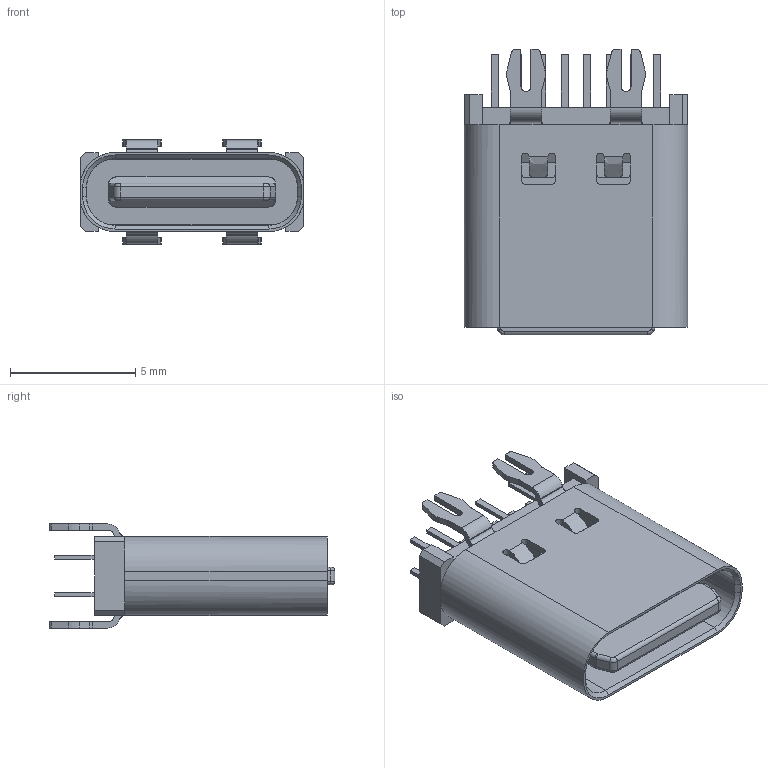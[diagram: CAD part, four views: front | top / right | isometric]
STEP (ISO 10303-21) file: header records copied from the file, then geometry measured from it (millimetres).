
FILE_DESCRIPTION((''),'2;1');
FILE_NAME('TYPE_C_180_SW0001','2023-11-08T',('Administrator'),(''),'PRO/ENGINEER BY PARAMETRIC TECHNOLOGY CORPORATION, 2011310','PRO/ENGINEER BY PARAMETRIC TECHNOLOGY CORPORATION, 2011310','');
FILE_SCHEMA(('CONFIG_CONTROL_DESIGN'));
Length unit declared in the file: millimetre
Products named in the file (1): TYPE_C_180_SW0001
Bounding box: 8.94 x 11.42 x 4.16 mm (x, y, z)
Volume: 171.9 mm3; surface area: 588.5 mm2
Topology: 1 solids, 1 shells, 388 faces, 1046 edges, 672 vertices
Faces by surface type: plane 242, cylinder 94, bspline 48, cone 4
Entity records: 13777 total; most frequent: CARTESIAN_POINT 4111, ORIENTED_EDGE 2092, DIRECTION 1862, EDGE_CURVE 1046, VECTOR 734, LINE 734, VERTEX_POINT 672, AXIS2_PLACEMENT_3D 564
